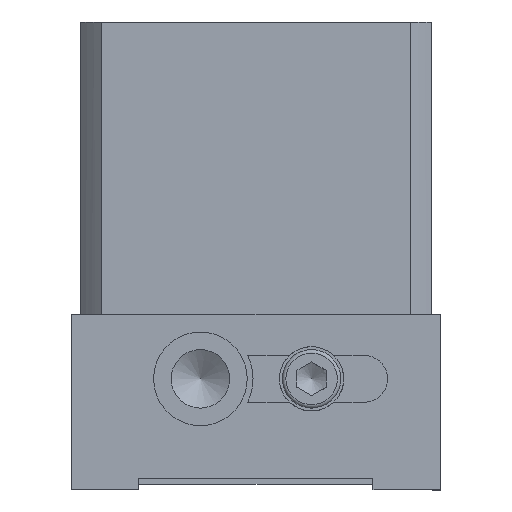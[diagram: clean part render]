
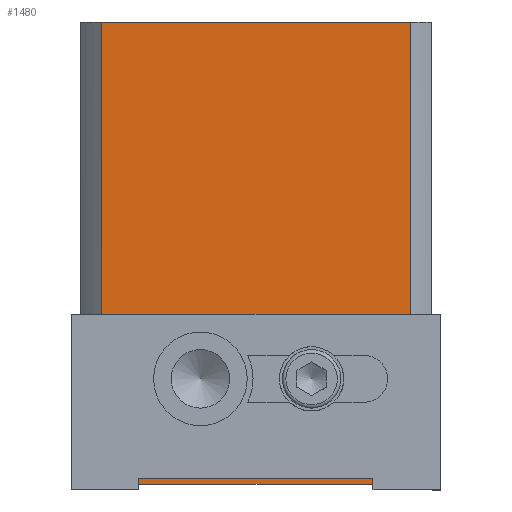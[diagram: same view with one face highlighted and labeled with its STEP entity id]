
A CAD part, left-side view. The second image highlights one B-rep face of the part: STEP entity #1480.
In plain terms, the highlighted planar face has unit normal (-1, 0, 0).
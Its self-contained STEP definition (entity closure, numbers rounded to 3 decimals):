
#325=CARTESIAN_POINT('',(-30.,39.5,-53.));
#326=VERTEX_POINT('',#325);
#327=CARTESIAN_POINT('',(-30.,39.5,-61.));
#328=DIRECTION('',(-1.0,0.0,0.0));
#329=DIRECTION('',(0.0,1.0,0.0));
#330=AXIS2_PLACEMENT_3D('',#327,#328,#329);
#331=CIRCLE('',#330,8.0);
#332=EDGE_CURVE('',#326,#326,#331,.T.);
#1411=CARTESIAN_POINT('',(-30.,56.458,0.0));
#1412=DIRECTION('',(-1.0,0.0,0.0));
#1413=DIRECTION('',(0.0,0.0,1.0));
#1414=AXIS2_PLACEMENT_3D('',#1411,#1412,#1413);
#1415=PLANE('',#1414);
#1416=CARTESIAN_POINT('',(-30.,3.542,0.0));
#1417=VERTEX_POINT('',#1416);
#1418=CARTESIAN_POINT('',(-30.,3.542,-76.542));
#1419=VERTEX_POINT('',#1418);
#1420=CARTESIAN_POINT('',(-30.,3.542,0.0));
#1421=DIRECTION('',(0.0,0.0,-1.0));
#1422=VECTOR('',#1421,76.542);
#1423=LINE('',#1420,#1422);
#1424=EDGE_CURVE('',#1417,#1419,#1423,.T.);
#1425=ORIENTED_EDGE('',*,*,#1424,.F.);
#1426=CARTESIAN_POINT('',(-30.,56.458,0.0));
#1427=VERTEX_POINT('',#1426);
#1428=CARTESIAN_POINT('',(-30.0,56.458,0.0));
#1429=DIRECTION('',(0.0,-1.0,0.0));
#1430=VECTOR('',#1429,52.915);
#1431=LINE('',#1428,#1430);
#1432=EDGE_CURVE('',#1427,#1417,#1431,.T.);
#1433=ORIENTED_EDGE('',*,*,#1432,.F.);
#1434=CARTESIAN_POINT('',(-30.,56.458,-76.542));
#1435=VERTEX_POINT('',#1434);
#1436=CARTESIAN_POINT('',(-30.,56.458,0.0));
#1437=DIRECTION('',(0.0,0.0,-1.0));
#1438=VECTOR('',#1437,76.542);
#1439=LINE('',#1436,#1438);
#1440=EDGE_CURVE('',#1427,#1435,#1439,.T.);
#1441=ORIENTED_EDGE('',*,*,#1440,.T.);
#1442=CARTESIAN_POINT('',(-30.,54.0,-79.0));
#1443=VERTEX_POINT('',#1442);
#1444=CARTESIAN_POINT('',(-30.,54.0,-79.0));
#1445=DIRECTION('',(0.0,0.707,0.707));
#1446=VECTOR('',#1445,3.475);
#1447=LINE('',#1444,#1446);
#1448=EDGE_CURVE('',#1443,#1435,#1447,.T.);
#1449=ORIENTED_EDGE('',*,*,#1448,.F.);
#1450=CARTESIAN_POINT('',(-30.,6.,-79.0));
#1451=VERTEX_POINT('',#1450);
#1452=CARTESIAN_POINT('',(-30.,54.0,-79.0));
#1453=DIRECTION('',(0.0,-1.0,0.0));
#1454=VECTOR('',#1453,48.0);
#1455=LINE('',#1452,#1454);
#1456=EDGE_CURVE('',#1443,#1451,#1455,.T.);
#1457=ORIENTED_EDGE('',*,*,#1456,.T.);
#1458=CARTESIAN_POINT('',(-30.,3.542,-76.542));
#1459=DIRECTION('',(0.0,0.707,-0.707));
#1460=VECTOR('',#1459,3.475);
#1461=LINE('',#1458,#1460);
#1462=EDGE_CURVE('',#1419,#1451,#1461,.T.);
#1463=ORIENTED_EDGE('',*,*,#1462,.F.);
#1464=EDGE_LOOP('',(#1425,#1433,#1441,#1449,#1457,#1463));
#1465=FACE_OUTER_BOUND('',#1464,.T.);
#1466=ORIENTED_EDGE('',*,*,#332,.F.);
#1467=EDGE_LOOP('',(#1466));
#1468=FACE_BOUND('',#1467,.T.);
#1469=CARTESIAN_POINT('',(-30.,20.5,-53.));
#1470=VERTEX_POINT('',#1469);
#1471=CARTESIAN_POINT('',(-30.,20.5,-61.));
#1472=DIRECTION('',(-1.0,0.0,0.0));
#1473=DIRECTION('',(0.0,-1.0,0.0));
#1474=AXIS2_PLACEMENT_3D('',#1471,#1472,#1473);
#1475=CIRCLE('',#1474,8.0);
#1476=EDGE_CURVE('',#1470,#1470,#1475,.T.);
#1477=ORIENTED_EDGE('',*,*,#1476,.F.);
#1478=EDGE_LOOP('',(#1477));
#1479=FACE_BOUND('',#1478,.T.);
#1480=ADVANCED_FACE('',(#1465,#1468,#1479),#1415,.T.);
